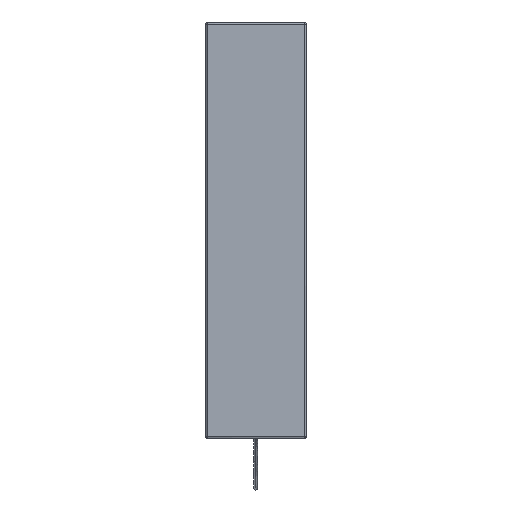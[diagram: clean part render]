
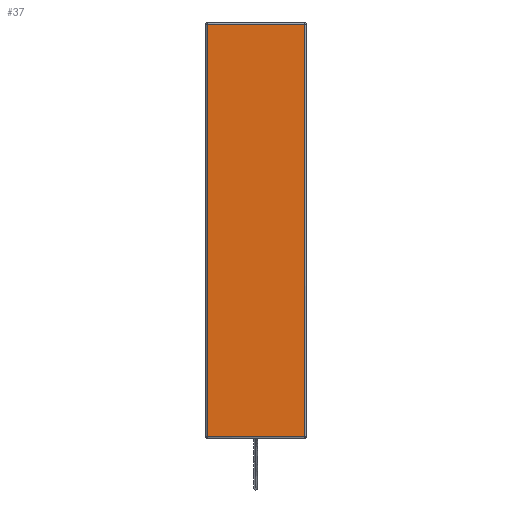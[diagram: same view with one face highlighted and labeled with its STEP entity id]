
A CAD part, top view. The second image highlights one B-rep face of the part: STEP entity #37.
In plain terms, the highlighted planar face has unit normal (0, 0, 1).
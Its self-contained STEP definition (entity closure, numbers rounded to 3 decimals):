
#37=ADVANCED_FACE('',(#71),#434,.T.);
#71=FACE_OUTER_BOUND('',#105,.T.);
#105=EDGE_LOOP('',(#146,#147,#148,#149));
#146=ORIENTED_EDGE('',*,*,#264,.T.);
#147=ORIENTED_EDGE('',*,*,#267,.F.);
#148=ORIENTED_EDGE('',*,*,#266,.F.);
#149=ORIENTED_EDGE('',*,*,#265,.T.);
#264=EDGE_CURVE('',#384,#385,#358,.T.);
#265=EDGE_CURVE('',#386,#384,#359,.T.);
#266=EDGE_CURVE('',#386,#387,#360,.T.);
#267=EDGE_CURVE('',#387,#385,#361,.T.);
#358=B_SPLINE_CURVE_WITH_KNOTS('',1,(#888,#889),.UNSPECIFIED.,.F.,.F.,(2,
2),(2.,414.),.UNSPECIFIED.);
#359=B_SPLINE_CURVE_WITH_KNOTS('',1,(#890,#891),.UNSPECIFIED.,.F.,.F.,(2,
2),(2.,137.),.UNSPECIFIED.);
#360=B_SPLINE_CURVE_WITH_KNOTS('',1,(#892,#893),.UNSPECIFIED.,.F.,.F.,(2,
2),(2.,414.),.UNSPECIFIED.);
#361=B_SPLINE_CURVE_WITH_KNOTS('',1,(#894,#895),.UNSPECIFIED.,.F.,.F.,(2,
2),(2.,137.),.UNSPECIFIED.);
#384=VERTEX_POINT('',#852);
#385=VERTEX_POINT('',#853);
#386=VERTEX_POINT('',#854);
#387=VERTEX_POINT('',#855);
#434=PLANE('',#463);
#463=AXIS2_PLACEMENT_3D('',#487,#475,$);
#475=DIRECTION('',(0.,0.,1.));
#487=CARTESIAN_POINT('',(-49.825,1448.578,917.71));
#852=CARTESIAN_POINT('',(-48.386,1446.578,917.71));
#853=CARTESIAN_POINT('',(-48.386,1034.578,917.71));
#854=CARTESIAN_POINT('',(48.736,1446.578,917.71));
#855=CARTESIAN_POINT('',(48.736,1034.578,917.71));
#888=CARTESIAN_POINT('',(-48.386,1446.578,917.71));
#889=CARTESIAN_POINT('',(-48.386,1034.578,917.71));
#890=CARTESIAN_POINT('',(48.736,1446.578,917.71));
#891=CARTESIAN_POINT('',(-48.386,1446.578,917.71));
#892=CARTESIAN_POINT('',(48.736,1446.578,917.71));
#893=CARTESIAN_POINT('',(48.736,1034.578,917.71));
#894=CARTESIAN_POINT('',(48.736,1034.578,917.71));
#895=CARTESIAN_POINT('',(-48.386,1034.578,917.71));
